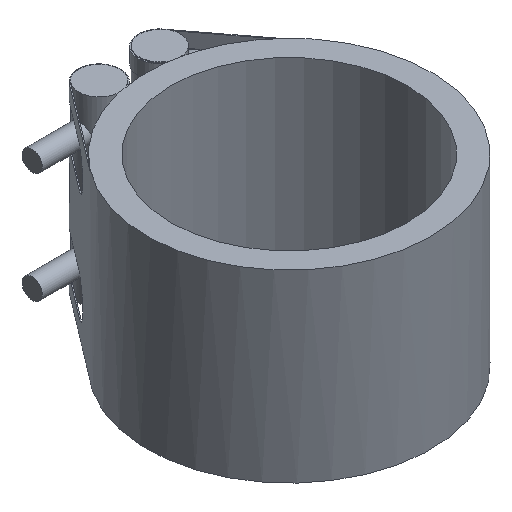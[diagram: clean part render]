
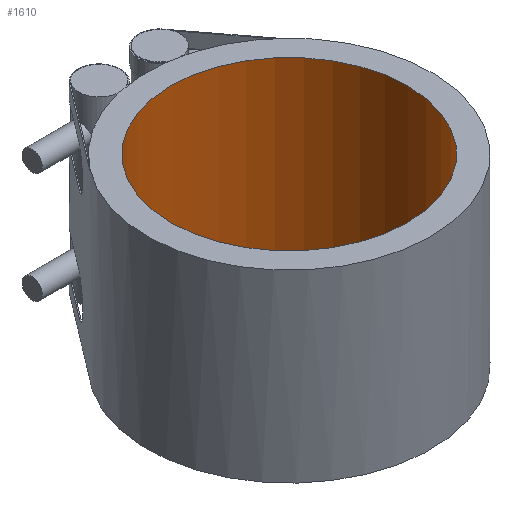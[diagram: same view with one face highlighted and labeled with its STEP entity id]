
A CAD part, isometric view. The second image highlights one B-rep face of the part: STEP entity #1610.
In plain terms, the highlighted cylindrical face has radius 70 mm (diameter 140 mm), a full revolution.
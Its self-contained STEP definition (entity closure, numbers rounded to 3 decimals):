
#364=CYLINDRICAL_SURFACE('',#1752,70.);
#418=FACE_BOUND('',#594,.T.);
#466=FACE_OUTER_BOUND('',#593,.T.);
#593=EDGE_LOOP('',(#1313));
#594=EDGE_LOOP('',(#1314));
#691=CIRCLE('',#1753,70.);
#692=CIRCLE('',#1754,70.);
#831=VERTEX_POINT('',#2856);
#832=VERTEX_POINT('',#2858);
#1007=EDGE_CURVE('',#831,#831,#691,.T.);
#1008=EDGE_CURVE('',#832,#832,#692,.T.);
#1313=ORIENTED_EDGE('',*,*,#1007,.F.);
#1314=ORIENTED_EDGE('',*,*,#1008,.F.);
#1610=ADVANCED_FACE('',(#466,#418),#364,.F.);
#1752=AXIS2_PLACEMENT_3D('',#2855,#2089,#2090);
#1753=AXIS2_PLACEMENT_3D('',#2857,#2091,#2092);
#1754=AXIS2_PLACEMENT_3D('',#2859,#2093,#2094);
#2089=DIRECTION('center_axis',(0.,0.,1.));
#2090=DIRECTION('ref_axis',(-1.,0.,0.));
#2091=DIRECTION('center_axis',(0.,0.,1.));
#2092=DIRECTION('ref_axis',(-1.,0.,0.));
#2093=DIRECTION('center_axis',(0.,0.,-1.));
#2094=DIRECTION('ref_axis',(-1.,0.,0.));
#2855=CARTESIAN_POINT('Origin',(0.,0.,0.));
#2856=CARTESIAN_POINT('',(70.,0.,-54.5));
#2857=CARTESIAN_POINT('Origin',(0.,0.,-54.5));
#2858=CARTESIAN_POINT('',(70.,0.,54.5));
#2859=CARTESIAN_POINT('Origin',(0.,0.,54.5));
